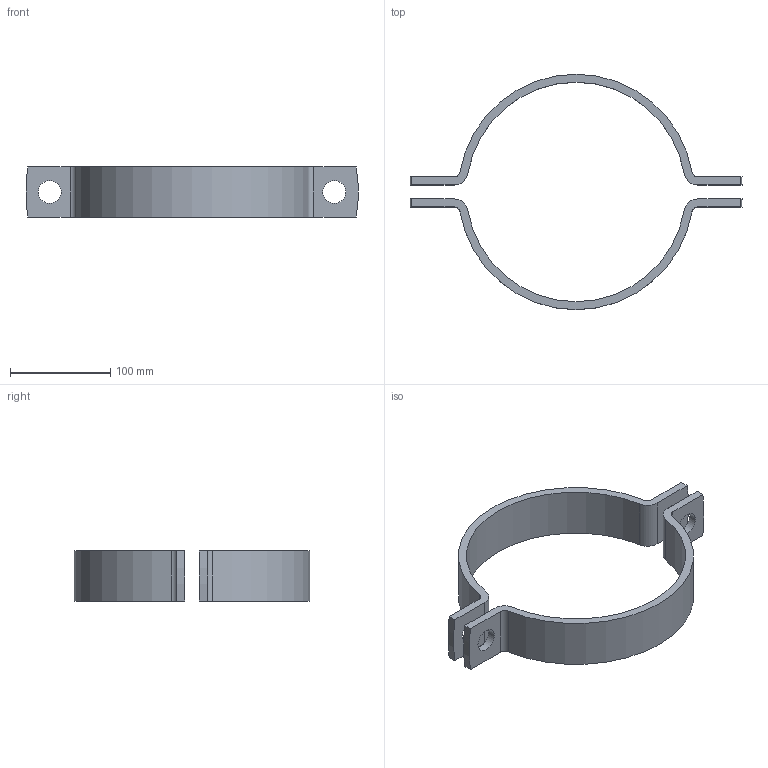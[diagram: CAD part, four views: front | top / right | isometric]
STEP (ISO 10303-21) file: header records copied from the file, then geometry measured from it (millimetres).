
FILE_DESCRIPTION (( 'STEP AP203' ), '1' );
FILE_NAME ('NW200-219,1 (DIN 3567).STEP', '2023-12-08T11:35:07', ( '' ), ( '' ), 'SwSTEP 2.0', 'SolidWorks 2023', '' );
FILE_SCHEMA (( 'CONFIG_CONTROL_DESIGN' ));
Length unit declared in the file: millimetre
Products named in the file (1): NW200-219,1 (DIN 3567)
Bounding box: 331.58 x 235.1 x 50 mm (x, y, z)
Volume: 333244.9 mm3; surface area: 101010.3 mm2
Topology: 2 solids, 2 shells, 36 faces, 96 edges, 64 vertices
Faces by surface type: cylinder 24, plane 12
Entity records: 1239 total; most frequent: DIRECTION 218, CARTESIAN_POINT 197, ORIENTED_EDGE 192, EDGE_CURVE 96, AXIS2_PLACEMENT_3D 85, VERTEX_POINT 64, VECTOR 48, CIRCLE 48
